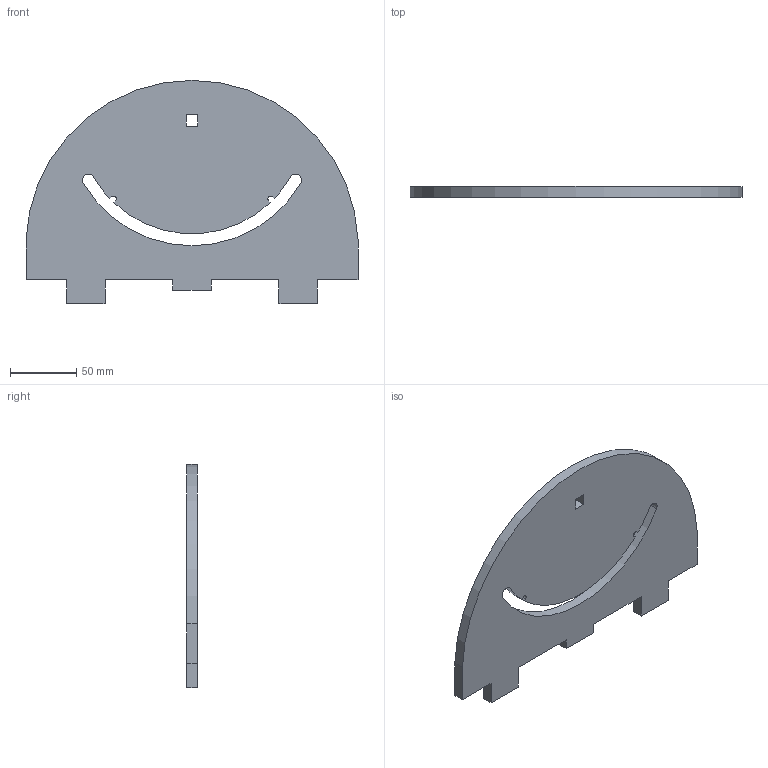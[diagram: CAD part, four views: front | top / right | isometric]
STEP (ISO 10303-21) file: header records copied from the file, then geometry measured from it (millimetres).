
FILE_DESCRIPTION(/* description */ (''),/* implementation_level */ '2;1');
FILE_NAME(/* name */ 'Holder_part_4_ver_3.step',/* time_stamp */ '2026-07-24T14:35:29+02:00',/* author */ ('dariu'),/* organization */ (''),/* preprocessor_version */ 'ST-DEVELOPER v20.1',/* originating_system */ 'Autodesk Inventor 2026',/* authorisation */ '');
FILE_SCHEMA (('AUTOMOTIVE_DESIGN { 1 0 10303 214 3 1 1 }'));
Length unit declared in the file: millimetre
Products named in the file (1): Holder_part_4_ver_3
Bounding box: 250 x 8 x 168 mm (x, y, z)
Volume: 241717.9 mm3; surface area: 70305.1 mm2
Topology: 1 solids, 1 shells, 34 faces, 96 edges, 64 vertices
Faces by surface type: plane 25, cylinder 9
Entity records: 1149 total; most frequent: CARTESIAN_POINT 195, ORIENTED_EDGE 192, DIRECTION 184, EDGE_CURVE 96, LINE 78, VECTOR 78, VERTEX_POINT 64, AXIS2_PLACEMENT_3D 53
